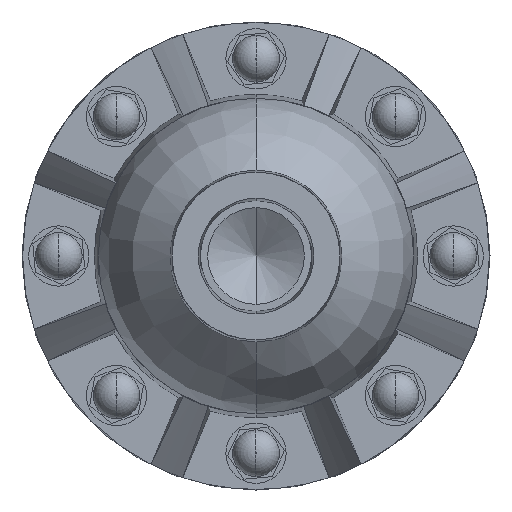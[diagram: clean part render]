
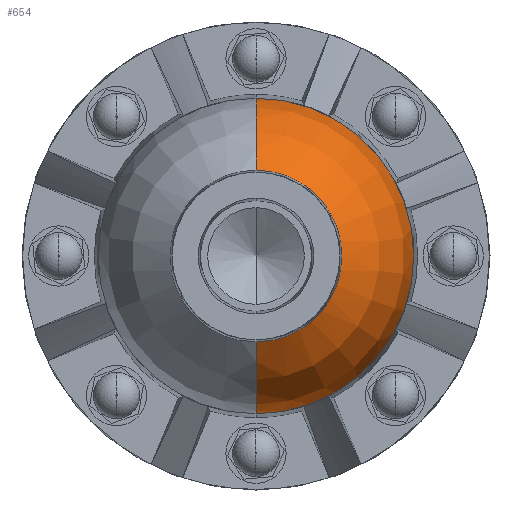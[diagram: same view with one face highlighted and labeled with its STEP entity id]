
A CAD part, front view. The second image highlights one B-rep face of the part: STEP entity #654.
In plain terms, the highlighted toroidal (fillet/blend) face has major radius 0.717 mm and minor radius 28.448 mm.
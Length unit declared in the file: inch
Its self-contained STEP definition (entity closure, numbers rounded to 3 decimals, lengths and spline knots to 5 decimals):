
#51 = DIRECTION ( 'NONE',  ( -1., 0., 0. ) ) ;
#148 = EDGE_CURVE ( 'NONE', #5681, #2041, #2494, .T. ) ;
#247 = EDGE_CURVE ( 'NONE', #4282, #5681, #1437, .T. ) ;
#298 = CARTESIAN_POINT ( 'NONE',  ( 0., -2.78824, 0.62426 ) ) ;
#654 = ADVANCED_FACE ( 'NONE', ( #6477 ), #8685, .T. ) ;
#724 = EDGE_CURVE ( 'NONE', #9927, #4282, #8049, .T. ) ;
#1024 = DIRECTION ( 'NONE',  ( 1., 0., 0. ) ) ;
#1291 = CARTESIAN_POINT ( 'NONE',  ( 0., -1.85955, -1.14807 ) ) ;
#1331 = CARTESIAN_POINT ( 'NONE',  ( 0., -1.85955, 1.14807 ) ) ;
#1437 = CIRCLE ( 'NONE', #6200, 1.12 ) ;
#1575 = CARTESIAN_POINT ( 'NONE',  ( 0., -1.85955, 0. ) ) ;
#1926 = EDGE_CURVE ( 'NONE', #9927, #2041, #9179, .T. ) ;
#2041 = VERTEX_POINT ( 'NONE', #1291 ) ;
#2410 = DIRECTION ( 'NONE',  ( 0., 0., 1. ) ) ;
#2494 = CIRCLE ( 'NONE', #10867, 1.14807 ) ;
#2762 = CARTESIAN_POINT ( 'NONE',  ( 0., -1.84, 0. ) ) ;
#2929 = AXIS2_PLACEMENT_3D ( 'NONE', #8798, #3751, #9636 ) ;
#3228 = EDGE_LOOP ( 'NONE', ( #5807, #6941, #4219, #3700 ) ) ;
#3700 = ORIENTED_EDGE ( 'NONE', *, *, #247, .F. ) ;
#3751 = DIRECTION ( 'NONE',  ( 0., -1., 0. ) ) ;
#4219 = ORIENTED_EDGE ( 'NONE', *, *, #148, .F. ) ;
#4282 = VERTEX_POINT ( 'NONE', #298 ) ;
#5144 = CARTESIAN_POINT ( 'NONE',  ( 0., -1.84, 0.02824 ) ) ;
#5308 = DIRECTION ( 'NONE',  ( 0., 0., 1. ) ) ;
#5681 = VERTEX_POINT ( 'NONE', #1331 ) ;
#5807 = ORIENTED_EDGE ( 'NONE', *, *, #724, .F. ) ;
#5988 = DIRECTION ( 'NONE',  ( 0., 0., 1. ) ) ;
#6107 = CARTESIAN_POINT ( 'NONE',  ( 0., -1.84, -0.02824 ) ) ;
#6200 = AXIS2_PLACEMENT_3D ( 'NONE', #5144, #51, #5988 ) ;
#6477 = FACE_OUTER_BOUND ( 'NONE', #3228, .T. ) ;
#6602 = CARTESIAN_POINT ( 'NONE',  ( 0., -2.78824, -0.62426 ) ) ;
#6939 = DIRECTION ( 'NONE',  ( 0., 0., -1. ) ) ;
#6941 = ORIENTED_EDGE ( 'NONE', *, *, #1926, .T. ) ;
#7497 = DIRECTION ( 'NONE',  ( 0., 1., 0. ) ) ;
#7550 = AXIS2_PLACEMENT_3D ( 'NONE', #6107, #1024, #6939 ) ;
#8049 = CIRCLE ( 'NONE', #2929, 0.62426 ) ;
#8657 = DIRECTION ( 'NONE',  ( 0., 1., 0. ) ) ;
#8685 = TOROIDAL_SURFACE ( 'NONE', #10441, 0.02824, 1.12 ) ;
#8798 = CARTESIAN_POINT ( 'NONE',  ( 0., -2.78824, 0. ) ) ;
#9179 = CIRCLE ( 'NONE', #7550, 1.12 ) ;
#9636 = DIRECTION ( 'NONE',  ( 0., 0., 1. ) ) ;
#9927 = VERTEX_POINT ( 'NONE', #6602 ) ;
#10441 = AXIS2_PLACEMENT_3D ( 'NONE', #2762, #8657, #5308 ) ;
#10867 = AXIS2_PLACEMENT_3D ( 'NONE', #1575, #7497, #2410 ) ;
